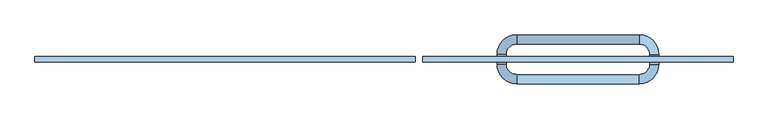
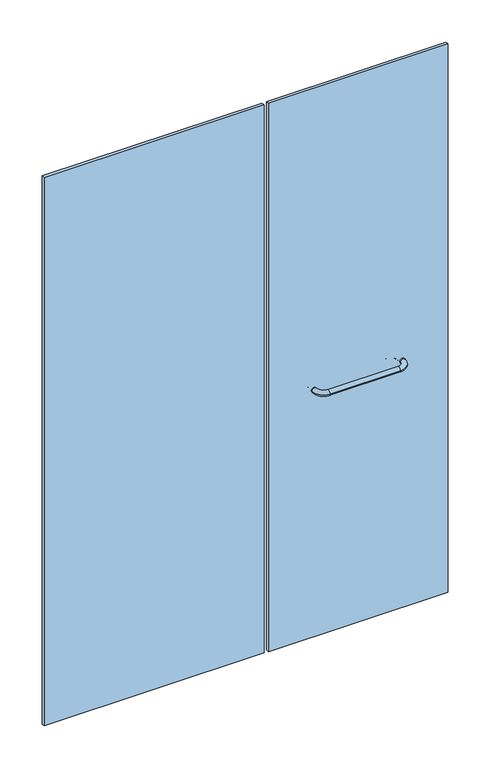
"""IFC4 building model written with IfcOpenShell, lengths in millimetres: window geometry, Baño 1 Puerta lateral - toallero simple : CA04-cancel baño-1.41."""

from ifc_helpers import new_model, si_unit, point, frame, origin, origin_with_axes, place, context, project, spatial, polyline, circle_curve, ellipse_curve, trimmed, outline, extrude, source, transform, mapped, element, save
from ifc_brep_helpers import cylinder_surface, revolved_surface, advanced_brep


def window_5ad79f5d(model_context):
    return source(origin(), model_context, "Body", "SolidModel", [
        extrude(outline(polyline([(70.0, 5.5), (690.0, 5.5), (690.0, -5.5), (70.0, -5.5), (70.0, 5.5)])), origin_with_axes(), (0.0, 0.0, 1.0), 2000.0),
        extrude(outline(polyline([(-705.0, 5.5), (55.0, 5.5), (55.0, -5.5), (-705.0, -5.5), (-705.0, 5.5)])), origin_with_axes(), (0.0, 0.0, 1.0), 2000.0),
        advanced_brep(
        [(218.5, -10.0, 900.0), (236.5, -10.0, 900.0), (257.5, -31.0, 900.0), (257.5, -49.0, 900.0), (218.5, 10.0, 900.0), (236.5, 10.0, 900.0), (257.5, 49.0, 900.0), (257.5, 31.0, 900.0), (502.5, 49.0, 900.0), (502.5, 31.0, 900.0), (541.5, 10.0, 900.0), (523.5, 10.0, 900.0), (541.5, -10.0, 900.0), (523.5, -10.0, 900.0), (502.5, -49.0, 900.0), (502.5, -31.0, 900.0)],
        [
            (0, 1, circle_curve(frame((227.5, -10.0, 900.0), z_axis=(0.0, -1.0, 0.0), x_axis=(1.0, 0.0, 0.0)), 9.0)),
            (1, 2, circle_curve(frame((257.5, -10.0, 900.0), z_axis=(0.0, 0.0, 1.0), x_axis=(0.0, -1.0, 0.0)), 21.0)),
            (2, 3, circle_curve(frame((257.5, -40.0, 900.0), z_axis=(-1.0, 0.0, 0.0), x_axis=(0.0, 1.0, 0.0)), 9.0)),
            (3, 0, circle_curve(frame((257.5, -10.0, 900.0), z_axis=(0.0, 0.0, -1.0), x_axis=(0.0, -1.0, 0.0)), 39.0)),
            (1, 0, circle_curve(frame((227.5, -10.0, 900.0), z_axis=(0.0, -1.0, 0.0), x_axis=(1.0, 0.0, 0.0)), 9.0)),
            (3, 2, circle_curve(frame((257.5, -40.0, 900.0), z_axis=(-1.0, 0.0, 0.0), x_axis=(0.0, 1.0, 0.0)), 9.0)),
            (0, 4),
            (4, 5, circle_curve(frame((227.5, 10.0, 900.0), z_axis=(0.0, -1.0, 0.0), x_axis=(1.0, 0.0, 0.0)), 9.0)),
            (5, 1),
            (5, 4, circle_curve(frame((227.5, 10.0, 900.0), z_axis=(0.0, -1.0, 0.0), x_axis=(1.0, 0.0, 0.0)), 9.0)),
            (6, 7, circle_curve(frame((257.5, 40.0, 900.0), z_axis=(-1.0, 0.0, 0.0), x_axis=(0.0, -1.0, 0.0)), 9.0)),
            (7, 5, circle_curve(frame((257.5, 10.0, 900.0), z_axis=(0.0, 0.0, 1.0), x_axis=(-1.0, 0.0, 0.0)), 21.0)),
            (4, 6, circle_curve(frame((257.5, 10.0, 900.0), z_axis=(0.0, 0.0, -1.0), x_axis=(-1.0, 0.0, 0.0)), 39.0)),
            (7, 6, circle_curve(frame((257.5, 40.0, 900.0), z_axis=(-1.0, 0.0, 0.0), x_axis=(0.0, -1.0, 0.0)), 9.0)),
            (6, 8),
            (8, 9, circle_curve(frame((502.5, 40.0, 900.0), z_axis=(-1.0, 0.0, 0.0), x_axis=(0.0, -1.0, 0.0)), 9.0)),
            (9, 7),
            (9, 8, circle_curve(frame((502.5, 40.0, 900.0), z_axis=(-1.0, 0.0, 0.0), x_axis=(0.0, -1.0, 0.0)), 9.0)),
            (10, 11, circle_curve(frame((532.5, 10.0, 900.0), z_axis=(0.0, 1.0, 0.0), x_axis=(-1.0, 0.0, 0.0)), 9.0)),
            (11, 9, circle_curve(frame((502.5, 10.0, 900.0), z_axis=(0.0, 0.0, 1.0), x_axis=(0.0, 1.0, 0.0)), 21.0)),
            (8, 10, circle_curve(frame((502.5, 10.0, 900.0), z_axis=(0.0, 0.0, -1.0), x_axis=(0.0, 1.0, 0.0)), 39.0)),
            (11, 10, circle_curve(frame((532.5, 10.0, 900.0), z_axis=(0.0, 1.0, 0.0), x_axis=(-1.0, 0.0, 0.0)), 9.0)),
            (10, 12),
            (12, 13, circle_curve(frame((532.5, -10.0, 900.0), z_axis=(0.0, 1.0, 0.0), x_axis=(-1.0, 0.0, 0.0)), 9.0)),
            (13, 11),
            (13, 12, circle_curve(frame((532.5, -10.0, 900.0), z_axis=(0.0, 1.0, 0.0), x_axis=(-1.0, 0.0, 0.0)), 9.0)),
            (14, 15, circle_curve(frame((502.5, -40.0, 900.0), z_axis=(1.0, 0.0, 0.0), x_axis=(0.0, 1.0, 0.0)), 9.0)),
            (15, 13, circle_curve(frame((502.5, -10.0, 900.0), z_axis=(0.0, 0.0, 1.0), x_axis=(1.0, 0.0, 0.0)), 21.0)),
            (12, 14, circle_curve(frame((502.5, -10.0, 900.0), z_axis=(0.0, 0.0, -1.0), x_axis=(1.0, 0.0, 0.0)), 39.0)),
            (15, 14, circle_curve(frame((502.5, -40.0, 900.0), z_axis=(1.0, 0.0, 0.0), x_axis=(0.0, 1.0, 0.0)), 9.0)),
            (14, 3),
            (2, 15),
        ],
        [
            revolved_surface(trimmed(ellipse_curve(frame((257.5, -40.0, 900.0), z_axis=(-1.0, 0.0, 0.0), x_axis=(0.0, 1.0, 0.0)), 9.0, 9.0), [point((257.5, -31.0, 900.0))], [point((257.5, -49.0, 900.0))], True, "CARTESIAN"), (257.5, -10.0, 0.0), (0.0, 0.0, 1.0)),
            revolved_surface(trimmed(ellipse_curve(frame((257.5, -40.0, 900.0), z_axis=(-1.0, 0.0, 0.0), x_axis=(0.0, 1.0, 0.0)), 9.0, 9.0), [point((257.5, -49.0, 900.0))], [point((257.5, -31.0, 900.0))], True, "CARTESIAN"), (257.5, -10.0, 0.0), (0.0, 0.0, 1.0)),
            cylinder_surface(frame((227.5, -10.0, 900.0), z_axis=(0.0, -1.0, 0.0), x_axis=(1.0, 0.0, 0.0)), 9.0),
            revolved_surface(trimmed(ellipse_curve(frame((227.5, 10.0, 900.0), z_axis=(0.0, 1.0, 0.0), x_axis=(1.0, 0.0, 0.0)), 9.0, 9.0), [point((236.5, 10.0, 900.0))], [point((218.5, 10.0, 900.0))], True, "CARTESIAN"), (257.5, 10.0, 0.0), (0.0, 0.0, 1.0)),
            revolved_surface(trimmed(ellipse_curve(frame((227.5, 10.0, 900.0), z_axis=(0.0, 1.0, 0.0), x_axis=(1.0, 0.0, 0.0)), 9.0, 9.0), [point((218.5, 10.0, 900.0))], [point((236.5, 10.0, 900.0))], True, "CARTESIAN"), (257.5, 10.0, 0.0), (0.0, 0.0, 1.0)),
            cylinder_surface(frame((257.5, 40.0, 900.0), z_axis=(-1.0, 0.0, 0.0), x_axis=(0.0, -1.0, 0.0)), 9.0),
            revolved_surface(trimmed(ellipse_curve(frame((502.5, 40.0, 900.0), z_axis=(1.0, 0.0, 0.0), x_axis=(0.0, -1.0, 0.0)), 9.0, 9.0), [point((502.5, 31.0, 900.0))], [point((502.5, 49.0, 900.0))], True, "CARTESIAN"), (502.5, 10.0, 0.0), (0.0, 0.0, 1.0)),
            revolved_surface(trimmed(ellipse_curve(frame((502.5, 40.0, 900.0), z_axis=(1.0, 0.0, 0.0), x_axis=(0.0, -1.0, 0.0)), 9.0, 9.0), [point((502.5, 49.0, 900.0))], [point((502.5, 31.0, 900.0))], True, "CARTESIAN"), (502.5, 10.0, 0.0), (0.0, 0.0, 1.0)),
            cylinder_surface(frame((532.5, 10.0, 900.0), z_axis=(0.0, 1.0, 0.0), x_axis=(-1.0, 0.0, 0.0)), 9.0),
            revolved_surface(trimmed(ellipse_curve(frame((532.5, -10.0, 900.0), z_axis=(0.0, -1.0, 0.0), x_axis=(-1.0, 0.0, 0.0)), 9.0, 9.0), [point((523.5, -10.0, 900.0))], [point((541.5, -10.0, 900.0))], True, "CARTESIAN"), (502.5, -10.0, 0.0), (0.0, 0.0, 1.0)),
            revolved_surface(trimmed(ellipse_curve(frame((532.5, -10.0, 900.0), z_axis=(0.0, -1.0, 0.0), x_axis=(-1.0, 0.0, 0.0)), 9.0, 9.0), [point((541.5, -10.0, 900.0))], [point((523.5, -10.0, 900.0))], True, "CARTESIAN"), (502.5, -10.0, 0.0), (0.0, 0.0, 1.0)),
            cylinder_surface(frame((502.5, -40.0, 900.0), z_axis=(1.0, 0.0, 0.0), x_axis=(0.0, 1.0, 0.0)), 9.0),
        ],
        [
            (0, [[1, 2, 3, 4]]),
            (1, [[5, -4, 6, -2]]),
            (2, [[7, 8, 9, -1]]),
            (2, [[-9, 10, -7, -5]]),
            (3, [[11, 12, -8, 13]]),
            (4, [[14, -13, -10, -12]]),
            (5, [[15, 16, 17, -11]]),
            (5, [[-17, 18, -15, -14]]),
            (6, [[19, 20, -16, 21]]),
            (7, [[22, -21, -18, -20]]),
            (8, [[23, 24, 25, -19]]),
            (8, [[-25, 26, -23, -22]]),
            (9, [[27, 28, -24, 29]]),
            (10, [[30, -29, -26, -28]]),
            (11, [[31, -3, 32, -27]]),
            (11, [[-32, -6, -31, -30]]),
        ],
    ),
    ])


if __name__ == "__main__":
    model = new_model("IFC4")
    model_context = context("Model", 3, world=origin())
    ifc_project = project(units=[si_unit("LENGTHUNIT", "METRE", prefix="MILLI")], contexts=[model_context])
    site = spatial("IfcSite", under=ifc_project)
    building = spatial("IfcBuilding", under=site)
    placement = place(None, origin())
    window_shape = window_5ad79f5d(model_context)
    element("IfcWindow", 1, ObjectType="Baño 1 Puerta lateral - toallero simple : CA04-cancel baño-1.41", at=placement, inside=building, context=model_context, shape_type="MappedRepresentation", body=[
        mapped(window_shape, transform((0.0, 0.0, 0.0), x_axis=(1.0, 0.0, 0.0), y_axis=(0.0, 1.0, 0.0), z_axis=(0.0, 0.0, 1.0))),
    ])
    save(model, "model.ifc")
